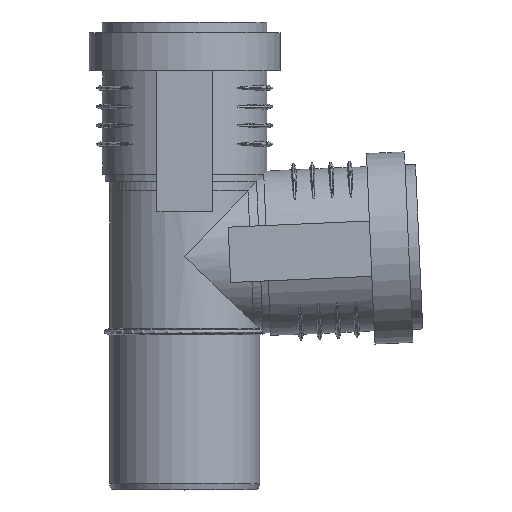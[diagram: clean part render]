
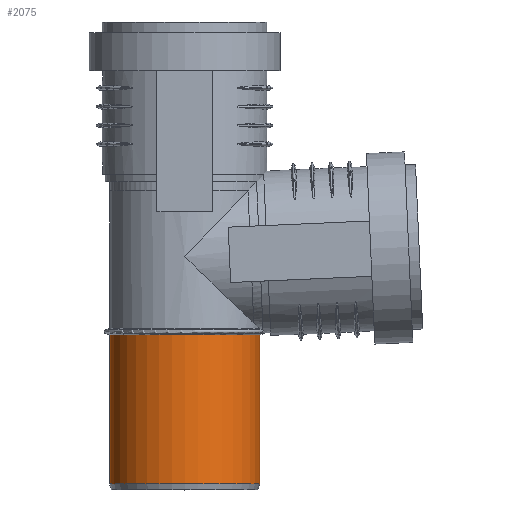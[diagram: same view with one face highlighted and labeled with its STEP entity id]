
A CAD part, top view. The second image highlights one B-rep face of the part: STEP entity #2075.
In plain terms, the highlighted cylindrical face has radius 25.075 mm (diameter 50.15 mm), a full revolution.
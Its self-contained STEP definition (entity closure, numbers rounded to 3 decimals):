
#374=CYLINDRICAL_SURFACE($,#2211,25.075);
#408=FACE_BOUND($,#594,.T.);
#477=FACE_OUTER_BOUND($,#593,.T.);
#593=EDGE_LOOP($,(#1374));
#594=EDGE_LOOP($,(#1375));
#775=CIRCLE($,#2209,25.075);
#777=CIRCLE($,#2212,25.075);
#874=VERTEX_POINT($,#3014);
#876=VERTEX_POINT($,#3019);
#1087=EDGE_CURVE($,#874,#874,#775,.T.);
#1089=EDGE_CURVE($,#876,#876,#777,.T.);
#1374=ORIENTED_EDGE($,*,*,#1089,.T.);
#1375=ORIENTED_EDGE($,*,*,#1087,.F.);
#2075=ADVANCED_FACE($,(#477,#408),#374,.T.);
#2209=AXIS2_PLACEMENT_3D($,#3015,#2455,#2456);
#2211=AXIS2_PLACEMENT_3D($,#3018,#2459,#2460);
#2212=AXIS2_PLACEMENT_3D($,#3020,#2461,#2462);
#2455=DIRECTION('center_axis',(0.,-1.,0.));
#2456=DIRECTION('ref_axis',(1.,0.,0.));
#2459=DIRECTION('center_axis',(0.,1.,0.));
#2460=DIRECTION('ref_axis',(1.,0.,0.));
#2461=DIRECTION('center_axis',(0.,-1.,0.));
#2462=DIRECTION('ref_axis',(1.,0.,0.));
#3014=CARTESIAN_POINT('',(-25.075,2.,0.));
#3015=CARTESIAN_POINT('Origin',(0.,2.,0.));
#3018=CARTESIAN_POINT('Origin',(0.,0.,0.));
#3019=CARTESIAN_POINT('',(-25.075,51.8,0.));
#3020=CARTESIAN_POINT('Origin',(0.,51.8,0.));
